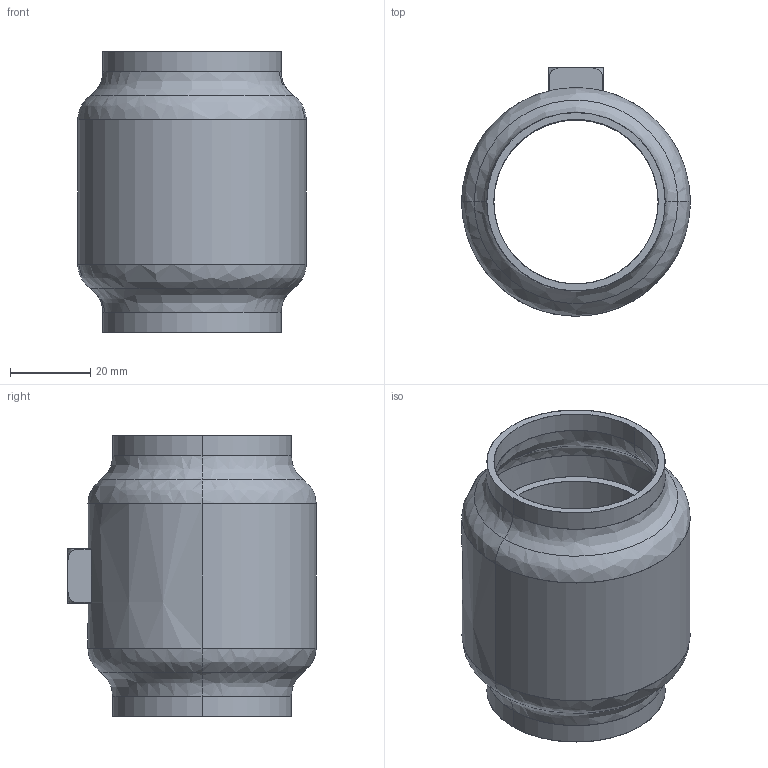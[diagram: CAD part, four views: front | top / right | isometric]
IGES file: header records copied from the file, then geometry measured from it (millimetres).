
Start section: SolidWorks IGES file using analytic representation for surfaces
Global section: file name: C:\HEMSIDA\cad\SLDPRT_2010\wn600\\wn600-40.igs; native system: SolidWorks 2010; preprocessor: SolidWorks 2010; author: Administrator; date: 101214.114956; units: millimetre
Bounding box: 57 x 62 x 70 mm (x, y, z)
Surface area: 33016.8 mm2 (no closed solid volume)
Topology: 0 solids, 0 shells, 56 faces, 1052 edges, 1052 vertices
Faces by surface type: bspline 29, revolution 27
